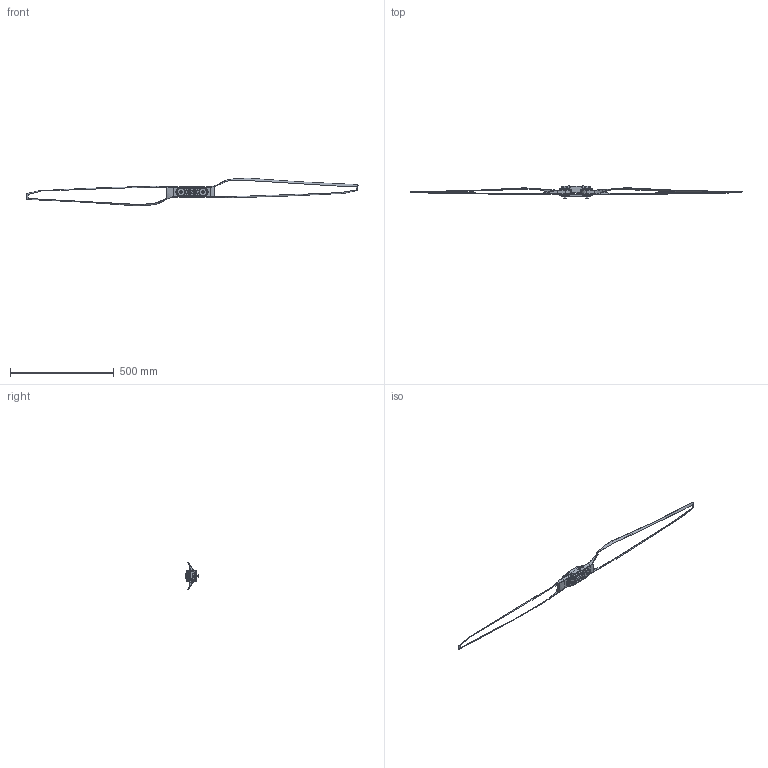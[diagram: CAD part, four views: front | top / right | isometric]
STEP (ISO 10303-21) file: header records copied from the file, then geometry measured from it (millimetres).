
FILE_DESCRIPTION (( 'STEP AP214' ), '1' );
FILE_NAME ('EFZ6324嶺薯蔑珔.STEP', '2026-06-24T09:23:58', ( '' ), ( '' ), 'SwSTEP 2.0', 'SolidWorks 2022', '' );
FILE_SCHEMA (( 'AUTOMOTIVE_DESIGN' ));
Length unit declared in the file: millimetre
Products named in the file (1): EFZ6324拉力桨叶
Bounding box: 1600.2 x 62.4 x 132.71 mm (x, y, z)
Volume: 375709.2 mm3; surface area: 121098.1 mm2
Topology: 1 solids, 3 shells, 663 faces, 1825 edges, 1176 vertices
Faces by surface type: plane 235, cylinder 219, cone 127, bspline 82
Entity records: 35311 total; most frequent: CARTESIAN_POINT 19389, ORIENTED_EDGE 3614, DIRECTION 2917, EDGE_CURVE 1807, VERTEX_POINT 1176, AXIS2_PLACEMENT_3D 1076, LINE 765, VECTOR 765
